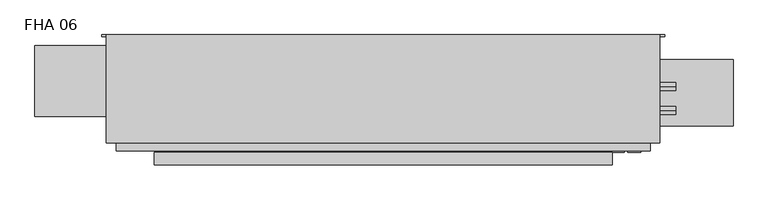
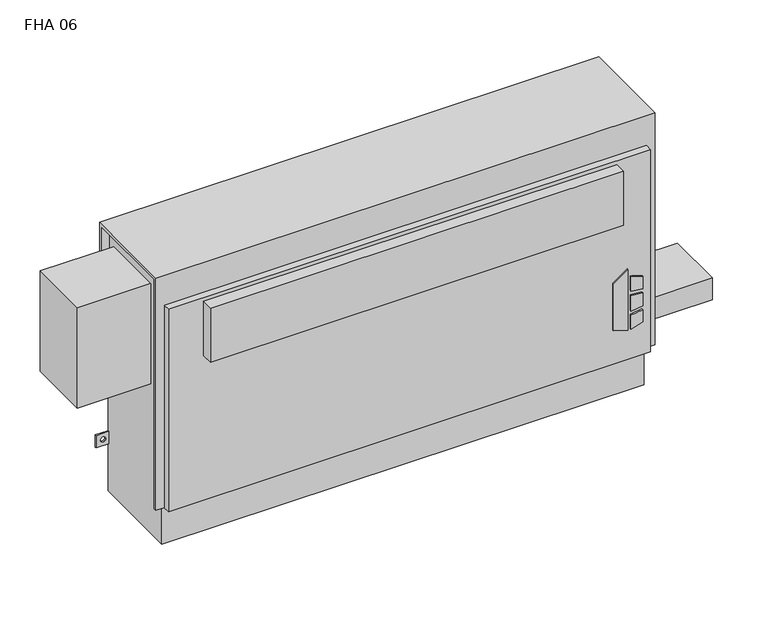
"""IFC4 building model written with IfcOpenShell, lengths in millimetres: proxy geometry, Vertical_Fan_Coil_Unit_-_FHA_-_IEC_-_2-Pipe_FS-FR_RH_2022 : FHA 06."""

import ifcopenshell
import ifcopenshell.guid

model = None  # the IFC model being written
_history = None  # IfcOwnerHistory: only IFC2X3 demands one
_inside = {}  # id of a spatial element -> (the spatial element, [elements in it])
_under = {}  # id of a project, library or spatial element -> (it, [spatial elements below it])
_declared = {}  # id of a project -> (the project, [libraries it declares])
_typed = {}  # id of a type object -> (the type object, [elements of that type])
_made_of = {}  # id of a material, layer set ... -> (it, [elements and type objects made of it])


def new_model(schema):
    """Start an empty IFC model of exactly this schema.

    Asked for "IFC4X3", IfcOpenShell would pick the latest addendum, in which some entities
    have other attributes; the version numbers below select the first issue.
    IFC2X3 requires an IfcOwnerHistory on every rooted entity: one is made here for all.
    """
    global model, _history
    if schema == "IFC4X3":
        model = ifcopenshell.file(schema_version=(4, 3, 0, 0))
    else:
        model = ifcopenshell.file(schema=schema)
    _inside.clear()
    _under.clear()
    _declared.clear()
    _typed.clear()
    _made_of.clear()
    _history = None
    if model.schema == "IFC2X3":
        org = make("IfcOrganization", Name="unknown")
        user = make(
            "IfcPersonAndOrganization",
            ThePerson=make("IfcPerson", FamilyName="unknown"),
            TheOrganization=org,
        )
        app = make(
            "IfcApplication",
            ApplicationDeveloper=org,
            Version="unknown",
            ApplicationFullName="unknown",
            ApplicationIdentifier="unknown",
        )
        _history = make(
            "IfcOwnerHistory",
            OwningUser=user,
            OwningApplication=app,
            ChangeAction="ADDED",
            CreationDate=0,
        )
    return model


def make(cls, **values):
    """One entity of the class cls with the attributes given. An attribute that is None is left unset."""
    return model.create_entity(
        cls, **{name: value for name, value in values.items() if value is not None}
    )


def rooted(cls, **values):
    """An entity with a GlobalId (a new one), such as an element, a storey or a relation."""
    return make(cls, GlobalId=ifcopenshell.guid.new(), OwnerHistory=_history, **values)


def si_unit(unit_type, name, prefix=None):
    """IfcSIUnit, for example si_unit("LENGTHUNIT", "METRE", prefix="MILLI")."""
    return make("IfcSIUnit", UnitType=unit_type, Prefix=prefix, Name=name)


def assignment(units):
    """IfcUnitAssignment: the units of a project."""
    return None if units is None else make("IfcUnitAssignment", Units=units)


def point(xyz):
    """IfcCartesianPoint."""
    return None if xyz is None else make("IfcCartesianPoint", Coordinates=xyz)


def direction(xyz):
    """IfcDirection."""
    return None if xyz is None else make("IfcDirection", DirectionRatios=xyz)


def frame(location, z_axis=None, x_axis=None):
    """IfcAxis2Placement3D, a coordinate frame: its origin and axes. An axis left out is left unset."""
    return make(
        "IfcAxis2Placement3D",
        Location=point(location),
        Axis=direction(z_axis),
        RefDirection=direction(x_axis),
    )


def frame_2d(location, x_axis=None):
    """IfcAxis2Placement2D, a coordinate frame in the plane: its origin and x axis."""
    return make(
        "IfcAxis2Placement2D", Location=point(location), RefDirection=direction(x_axis)
    )


def origin():
    """The frame at (0, 0, 0) with its axes left unset."""
    return frame((0.0, 0.0, 0.0))


def place(relative_to, where):
    """IfcLocalPlacement: puts the frame where relative to a parent placement (None: the world)."""
    return make(
        "IfcLocalPlacement", PlacementRelTo=relative_to, RelativePlacement=where
    )


def context(
    kind, dimensions, precision=None, world=None, true_north=None, identifier=None
):
    """IfcGeometricRepresentationContext, for example the 3D "Model" context."""
    return make(
        "IfcGeometricRepresentationContext",
        ContextIdentifier=identifier,
        ContextType=kind,
        CoordinateSpaceDimension=dimensions,
        Precision=precision,
        WorldCoordinateSystem=world,
        TrueNorth=true_north,
    )


def project(units=None, contexts=None):
    """IfcProject with its units and contexts."""
    return rooted(
        "IfcProject",
        Name="project",
        RepresentationContexts=contexts,
        UnitsInContext=assignment(units),
    )


def spatial(cls, under=None, at=None, **own):
    """A site, building, storey or space (cls), placed at a placement, below another one or the project."""
    s = rooted(cls, ObjectPlacement=at, **own)
    if under is not None:
        _under.setdefault(under.id(), (under, []))[1].append(s)
    return s


def polyline(points):
    """IfcPolyline through the points."""
    return make("IfcPolyline", Points=[point(p) for p in points])


def circle_curve(where, radius):
    """IfcCircle in the frame where."""
    return make("IfcCircle", Position=where, Radius=radius)


def trimmed(basis, trim1, trim2, sense, master):
    """IfcTrimmedCurve: the piece of a basis curve between two trims."""
    return make(
        "IfcTrimmedCurve",
        BasisCurve=basis,
        Trim1=trim1,
        Trim2=trim2,
        SenseAgreement=sense,
        MasterRepresentation=master,
    )


def segment(curve, same_sense, transition):
    """IfcCompositeCurveSegment."""
    return make(
        "IfcCompositeCurveSegment",
        Transition=transition,
        SameSense=same_sense,
        ParentCurve=curve,
    )


def composite_curve(segments, self_intersect=None):
    """IfcCompositeCurve: segments joined end to end."""
    return make("IfcCompositeCurve", Segments=segments, SelfIntersect=self_intersect)


def outline(outer, holes=None, kind="AREA"):
    """IfcArbitraryClosedProfileDef: a profile drawn as a closed curve; with holes, ...WithVoids."""
    if holes is None:
        return make("IfcArbitraryClosedProfileDef", ProfileType=kind, OuterCurve=outer)
    return make(
        "IfcArbitraryProfileDefWithVoids",
        ProfileType=kind,
        OuterCurve=outer,
        InnerCurves=holes,
    )


def extrude(swept, where, along, depth):
    """IfcExtrudedAreaSolid: the profile swept, set in the frame where, extruded along a direction by depth."""
    return make(
        "IfcExtrudedAreaSolid",
        SweptArea=swept,
        Position=where,
        ExtrudedDirection=direction(along),
        Depth=depth,
    )


def shape(context_of_items, identifier, shape_type, items):
    """IfcShapeRepresentation: the items that make up one representation, for example the "Body"."""
    return make(
        "IfcShapeRepresentation",
        ContextOfItems=context_of_items,
        RepresentationIdentifier=identifier,
        RepresentationType=shape_type,
        Items=items,
    )


def source(mapping_origin, context_of_items, identifier, shape_type, items):
    """IfcRepresentationMap: a shape defined once, which mapped items show again and again."""
    return make(
        "IfcRepresentationMap",
        MappingOrigin=mapping_origin,
        MappedRepresentation=shape(context_of_items, identifier, shape_type, items),
    )


def transform(
    local_origin,
    x_axis=None,
    y_axis=None,
    z_axis=None,
    scale=None,
    scale2=None,
    scale3=None,
    uniform=True,
):
    """IfcCartesianTransformationOperator3D, or its non-uniform kind. x_axis, y_axis, z_axis: its Axis1, 2, 3."""
    if uniform:
        return make(
            "IfcCartesianTransformationOperator3D",
            Axis1=direction(x_axis),
            Axis2=direction(y_axis),
            LocalOrigin=point(local_origin),
            Scale=scale,
            Axis3=direction(z_axis),
        )
    return make(
        "IfcCartesianTransformationOperator3DnonUniform",
        Axis1=direction(x_axis),
        Axis2=direction(y_axis),
        LocalOrigin=point(local_origin),
        Scale=scale,
        Axis3=direction(z_axis),
        Scale2=scale2,
        Scale3=scale3,
    )


def mapped(mapping_source, mapping_target):
    """IfcMappedItem: shows the shape of a source again, moved by a transform."""
    return make(
        "IfcMappedItem", MappingSource=mapping_source, MappingTarget=mapping_target
    )


def made_of(thing, what):
    """Note that an element or type object is made of a material, layer set ...; save() writes the relation."""
    if what is not None:
        _made_of.setdefault(what.id(), (what, []))[1].append(thing)
    return thing


def element(
    cls,
    number,
    at=None,
    inside=None,
    cuts=None,
    type_object=None,
    material=None,
    context=None,
    identifier="Body",
    shape_type=None,
    held_by="IfcProductDefinitionShape",
    body=None,
    shapes=None,
    **own,
):
    """One element of the class cls, such as IfcWall. Its Tag is "e" and its number.

    at: its placement. inside: the storey or other place that contains it. cuts: it is an
    opening in that element (IfcRelVoidsElement). A single representation is given by context,
    identifier, shape_type and body (its items); several are given by shapes. held_by: the class
    of the entity that holds the representations. save() writes the other relations.
    """
    e = rooted(cls, Tag="e%d" % number, ObjectPlacement=at, **own)
    if body is not None:
        shapes = [shape(context, identifier, shape_type, body)]
    if shapes is not None:
        e.Representation = make(held_by, Representations=shapes)
    if inside is not None:
        _inside.setdefault(inside.id(), (inside, []))[1].append(e)
    if cuts is not None:
        rooted(
            "IfcRelVoidsElement", RelatingBuildingElement=cuts, RelatedOpeningElement=e
        )
    if type_object is not None:
        _typed.setdefault(type_object.id(), (type_object, []))[1].append(e)
    return made_of(e, material)


def aggregate(whole, parts):
    """IfcRelAggregates: a whole, such as a stair, and the parts it consists of."""
    return rooted("IfcRelAggregates", RelatingObject=whole, RelatedObjects=parts)


def save(model, path):
    """Write the relations noted so far, then the file.

    IfcRelAggregates (storeys below a building ...), IfcRelContainedInSpatialStructure (elements
    in a storey), IfcRelDefinesByType, IfcRelAssociatesMaterial and IfcRelDeclares: one each for
    every whole, place, type object, material and project.
    """
    for whole, parts in _under.values():
        aggregate(whole, parts)
    for where, things in _inside.values():
        rooted(
            "IfcRelContainedInSpatialStructure",
            RelatedElements=things,
            RelatingStructure=where,
        )
    for kind, things in _typed.values():
        rooted("IfcRelDefinesByType", RelatedObjects=things, RelatingType=kind)
    for what, things in _made_of.values():
        rooted("IfcRelAssociatesMaterial", RelatedObjects=things, RelatingMaterial=what)
    for by, libraries in _declared.values():
        rooted("IfcRelDeclares", RelatingContext=by, RelatedDefinitions=libraries)
    model.write(path)


def plane_surface(at):
    """IfcPlane: the flat surface through the origin of the frame at, square to its z axis."""
    return make("IfcPlane", Position=at)


def revolved_surface(curve, axis_point, axis_direction):
    """IfcSurfaceOfRevolution: the curve turned about the line through axis_point along axis_direction."""
    return make(
        "IfcSurfaceOfRevolution",
        SweptCurve=make("IfcArbitraryOpenProfileDef", ProfileType="CURVE", Curve=curve),
        AxisPosition=make("IfcAxis1Placement", Location=point(axis_point), Axis=direction(axis_direction)),
    )


def advanced_brep(points, edges, surfaces, faces):
    """IfcAdvancedBrep: a solid bounded by faces that lie on surfaces and meet in shared edges.

    An edge is (start, end): straight between two places in points (the first is 0);
    or (start, end, curve); or (start, end, curve, False) where it runs against its curve.
    A face is (place in surfaces, loops), or (place, loops, False) where it looks against
    its surface's normal. A loop lists edges by number (the first is 1), with a minus sign
    where the edge is run from its end to its start. The first loop is the outer one.
    """
    corners = [point(p) for p in points]
    vertices = [make("IfcVertexPoint", VertexGeometry=c) for c in corners]
    made = []
    for start, end, *more in edges:
        made.append(
            make(
                "IfcEdgeCurve",
                EdgeStart=vertices[start],
                EdgeEnd=vertices[end],
                EdgeGeometry=more[0] if more else make("IfcPolyline", Points=[corners[start], corners[end]]),
                SameSense=more[1] if len(more) > 1 else True,
            )
        )
    hull = []
    for where, loops, *sense in faces:
        bounds = []
        for j, loop in enumerate(loops):
            ring = [make("IfcOrientedEdge", EdgeElement=made[abs(k) - 1], Orientation=k > 0) for k in loop]
            bounds.append(
                make(
                    "IfcFaceOuterBound" if j == 0 else "IfcFaceBound",
                    Bound=make("IfcEdgeLoop", EdgeList=ring),
                    Orientation=True,
                )
            )
        hull.append(make("IfcAdvancedFace", Bounds=bounds, FaceSurface=surfaces[where], SameSense=sense[0] if sense else True))
    return make("IfcAdvancedBrep", Outer=make("IfcClosedShell", CfsFaces=hull))


def fha_06_63c93824(model_context):
    return source(origin(), model_context, "Body", "SolidModel", [
        extrude(outline(polyline([(172.5771459, 601.7368862), (162.6290756, 633.9102728), (304.8, 633.9102728), (281.7779939, 601.7368862), (172.5771459, 601.7368862)])), frame((0.0, 9.525, 0.0), z_axis=(0.0, 1.0, 0.0), x_axis=(0.0, 0.0, 1.0)), (0.0, 0.0, 1.0), 3.175),
        extrude(outline(polyline([(251.5764313, 640.6686058), (248.3740387, 666.75), (277.6028798, 666.75), (285.6672948, 640.6686058), (251.5764313, 640.6686058)])), frame((0.0, 9.525, 0.0), z_axis=(0.0, 1.0, 0.0), x_axis=(0.0, 0.0, 1.0)), (0.0, 0.0, 1.0), 3.175),
        extrude(outline(polyline([(199.7129044, 666.75), (196.0474034, 640.6686058), (162.6290756, 640.6686058), (171.2633128, 666.75), (199.7129044, 666.75)])), frame((0.0, 9.525, 0.0), z_axis=(0.0, 1.0, 0.0), x_axis=(0.0, 0.0, 1.0)), (0.0, 0.0, 1.0), 3.175),
        extrude(outline(polyline([(239.0280658, 666.75), (241.3098921, 640.6686058), (205.3723436, 640.6686058), (208.1136086, 666.75), (239.0280658, 666.75)])), frame((0.0, 9.525, 0.0), z_axis=(0.0, 1.0, 0.0), x_axis=(0.0, 0.0, 1.0)), (0.0, 0.0, 1.0), 3.175),
        extrude(outline(composite_curve([segment(trimmed(circle_curve(frame_2d((749.3, 128.5875)), 9.525), [point((739.775, 128.5875))], [point((758.825, 128.5875))], False, "CARTESIAN"), True, "CONTINUOUS"), segment(trimmed(circle_curve(frame_2d((749.3, 128.5875)), 9.525), [point((758.825, 128.5875))], [point((739.775, 128.5875))], False, "CARTESIAN"), True, "CONTINUOUS")], self_intersect=False)), frame((0.0, 0.0, 101.6), z_axis=(0.0, 0.0, 1.0), x_axis=(1.0, 0.0, 0.0)), (0.0, 0.0, 1.0), 25.4),
        extrude(outline(polyline([(850.9, 195.2625), (850.9, 61.9125), (685.8, 61.9125), (685.8, 195.2625), (850.9, 195.2625)])), frame((0.0, 0.0, 127.0), z_axis=(0.0, 0.0, 1.0), x_axis=(1.0, 0.0, 0.0)), (0.0, 0.0, 1.0), 50.8),
        extrude(outline(polyline([(609.6, -15.875), (-304.8, -15.875), (-304.8, 9.525), (609.6, 9.525), (609.6, -15.875)])), frame((0.0, 0.0, 431.8), z_axis=(0.0, 0.0, 1.0), x_axis=(1.0, 0.0, 0.0)), (0.0, 0.0, 1.0), 127.0),
        extrude(outline(composite_curve([segment(trimmed(circle_curve(frame_2d((93.1926, 488.0102)), 7.9375), [point((93.1926, 480.0727))], [point((93.1926, 495.9477))], False, "CARTESIAN"), True, "CONTINUOUS"), segment(trimmed(circle_curve(frame_2d((93.1926, 488.0102)), 7.9375), [point((93.1926, 495.9477))], [point((93.1926, 480.0727))], False, "CARTESIAN"), True, "CONTINUOUS")], self_intersect=False)), frame((685.8, 0.0, 0.0), z_axis=(1.0, 0.0, 0.0), x_axis=(0.0, 1.0, 0.0)), (0.0, 0.0, 1.0), 50.8),
        extrude(outline(composite_curve([segment(trimmed(circle_curve(frame_2d((141.3002, 461.3402)), 7.9375), [point((141.3002, 453.4027))], [point((141.3002, 469.2777))], False, "CARTESIAN"), True, "CONTINUOUS"), segment(trimmed(circle_curve(frame_2d((141.3002, 461.3402)), 7.9375), [point((141.3002, 469.2777))], [point((141.3002, 453.4027))], False, "CARTESIAN"), True, "CONTINUOUS")], self_intersect=False)), frame((685.8, 0.0, 0.0), z_axis=(1.0, 0.0, 0.0), x_axis=(0.0, 1.0, 0.0)), (0.0, 0.0, 1.0), 50.8),
        extrude(outline(polyline([(-381.0, 223.266), (-381.0, 81.534), (-542.925, 81.534), (-542.925, 223.266), (-381.0, 223.266)])), frame((0.0, 0.0, 349.25), z_axis=(0.0, 0.0, 1.0), x_axis=(1.0, 0.0, 0.0)), (0.0, 0.0, 1.0), 234.95),
        advanced_brep(
        [(704.85, 244.475, 635.0), (-400.05, 244.475, 635.0), (-400.05, 28.575, 635.0), (704.85, 28.575, 635.0), (-381.0, 244.475, 0.0), (685.8, 244.475, 0.0), (685.8, 38.1, 0.0), (-381.0, 38.1, 0.0), (704.85, 244.475, 558.8), (685.8, 244.475, 558.8), (685.8, 244.475, 414.3375), (714.375, 244.475, 414.3375), (714.375, 244.475, 385.7625), (685.8, 244.475, 385.7625), (685.8, 244.475, 287.3375), (714.375, 244.475, 287.3375), (714.375, 244.475, 258.7625), (685.8, 244.475, 258.7625), (685.8, 244.475, 141.2875), (714.375, 244.475, 141.2875), (714.375, 244.475, 112.7125), (685.8, 244.475, 112.7125), (-381.0, 244.475, 112.7125), (-409.575, 244.475, 112.7125), (-409.575, 244.475, 141.2875), (-381.0, 244.475, 141.2875), (-381.0, 244.475, 258.7625), (-409.575, 244.475, 258.7625), (-409.575, 244.475, 287.3375), (-381.0, 244.475, 287.3375), (-381.0, 244.475, 385.7625), (-409.575, 244.475, 385.7625), (-409.575, 244.475, 414.3375), (-381.0, 244.475, 414.3375), (-381.0, 244.475, 558.8), (-400.05, 244.475, 558.8), (704.0626, 244.475, 127.0), (692.9374, 244.475, 127.0), (-388.1374, 244.475, 127.0), (-399.2626, 244.475, 127.0), (704.0626, 244.475, 273.05), (692.9374, 244.475, 273.05), (-388.1374, 244.475, 273.05), (-399.2626, 244.475, 273.05), (704.0626, 244.475, 400.05), (692.9374, 244.475, 400.05), (-388.1374, 244.475, 400.05), (-399.2626, 244.475, 400.05), (-400.05, 238.125, 558.8), (-400.05, 238.125, 628.65), (-400.05, 34.925, 628.65), (-400.05, 34.925, 92.075), (-400.05, 28.575, 92.075), (685.8, 12.7, 565.15), (-381.0, 12.7, 565.15), (-381.0, 12.7, 92.075), (685.8, 12.7, 92.075), (704.85, 28.575, 92.075), (704.85, 34.925, 92.075), (704.85, 34.925, 628.65), (704.85, 238.125, 628.65), (704.85, 238.125, 558.8), (-381.0, 28.575, 92.075), (-381.0, 28.575, 565.15), (685.8, 28.575, 565.15), (685.8, 28.575, 92.075), (-381.0, 34.925, 92.075), (-381.0, 38.1, 92.075), (685.8, 38.1, 92.075), (685.8, 34.925, 92.075), (685.8, 241.3, 112.7125), (685.8, 241.3, 141.2875), (685.8, 241.3, 258.7625), (685.8, 241.3, 287.3375), (685.8, 241.3, 385.7625), (685.8, 241.3, 414.3375), (685.8, 238.125, 558.8), (685.8, 238.125, 628.65), (685.8, 34.925, 628.65), (-381.0, 34.925, 628.65), (-381.0, 238.125, 628.65), (-381.0, 238.125, 558.8), (-381.0, 241.3, 414.3375), (-381.0, 241.3, 385.7625), (-381.0, 241.3, 287.3375), (-381.0, 241.3, 258.7625), (-381.0, 241.3, 141.2875), (-381.0, 241.3, 112.7125), (714.375, 241.3, 112.7125), (714.375, 241.3, 141.2875), (692.9374, 241.3, 127.0), (704.0626, 241.3, 127.0), (714.375, 241.3, 258.7625), (714.375, 241.3, 287.3375), (692.9374, 241.3, 273.05), (704.0626, 241.3, 273.05), (714.375, 241.3, 385.7625), (714.375, 241.3, 414.3375), (692.9374, 241.3, 400.05), (704.0626, 241.3, 400.05), (-409.575, 241.3, 141.2875), (-409.575, 241.3, 112.7125), (-399.2626, 241.3, 127.0), (-388.1374, 241.3, 127.0), (-409.575, 241.3, 287.3375), (-409.575, 241.3, 258.7625), (-399.2626, 241.3, 273.05), (-388.1374, 241.3, 273.05), (-409.575, 241.3, 414.3375), (-409.575, 241.3, 385.7625), (-399.2626, 241.3, 400.05), (-388.1374, 241.3, 400.05)],
        [
            (0, 1),
            (1, 2),
            (2, 3),
            (3, 0),
            (4, 5),
            (5, 6),
            (6, 7),
            (7, 4),
            (0, 8),
            (8, 9),
            (9, 10),
            (10, 11),
            (11, 12),
            (12, 13),
            (13, 14),
            (14, 15),
            (15, 16),
            (16, 17),
            (17, 18),
            (18, 19),
            (19, 20),
            (20, 21),
            (21, 5),
            (4, 22),
            (22, 23),
            (23, 24),
            (24, 25),
            (25, 26),
            (26, 27),
            (27, 28),
            (28, 29),
            (29, 30),
            (30, 31),
            (31, 32),
            (32, 33),
            (33, 34),
            (34, 35),
            (35, 1),
            (36, 37, circle_curve(frame((698.5, 244.475, 127.0), z_axis=(0.0, -1.0, 0.0), x_axis=(-1.0, 0.0, 0.0)), 5.5626)),
            (37, 36, circle_curve(frame((698.5, 244.475, 127.0), z_axis=(0.0, -1.0, 0.0), x_axis=(-1.0, 0.0, 0.0)), 5.5626)),
            (38, 39, circle_curve(frame((-393.7, 244.475, 127.0), z_axis=(0.0, -1.0, 0.0), x_axis=(-1.0, 0.0, 0.0)), 5.5626)),
            (39, 38, circle_curve(frame((-393.7, 244.475, 127.0), z_axis=(0.0, -1.0, 0.0), x_axis=(-1.0, 0.0, 0.0)), 5.5626)),
            (40, 41, circle_curve(frame((698.5, 244.475, 273.05), z_axis=(0.0, -1.0, 0.0), x_axis=(-1.0, 0.0, 0.0)), 5.5626)),
            (41, 40, circle_curve(frame((698.5, 244.475, 273.05), z_axis=(0.0, -1.0, 0.0), x_axis=(-1.0, 0.0, 0.0)), 5.5626)),
            (42, 43, circle_curve(frame((-393.7, 244.475, 273.05), z_axis=(0.0, -1.0, 0.0), x_axis=(-1.0, 0.0, 0.0)), 5.5626)),
            (43, 42, circle_curve(frame((-393.7, 244.475, 273.05), z_axis=(0.0, -1.0, 0.0), x_axis=(-1.0, 0.0, 0.0)), 5.5626)),
            (44, 45, circle_curve(frame((698.5, 244.475, 400.05), z_axis=(0.0, -1.0, 0.0), x_axis=(-1.0, 0.0, 0.0)), 5.5626)),
            (45, 44, circle_curve(frame((698.5, 244.475, 400.05), z_axis=(0.0, -1.0, 0.0), x_axis=(-1.0, 0.0, 0.0)), 5.5626)),
            (46, 47, circle_curve(frame((-393.7, 244.475, 400.05), z_axis=(0.0, -1.0, 0.0), x_axis=(-1.0, 0.0, 0.0)), 5.5626)),
            (47, 46, circle_curve(frame((-393.7, 244.475, 400.05), z_axis=(0.0, -1.0, 0.0), x_axis=(-1.0, 0.0, 0.0)), 5.5626)),
            (35, 48),
            (48, 49),
            (49, 50),
            (50, 51),
            (51, 52),
            (52, 2),
            (53, 54),
            (54, 55),
            (55, 56),
            (56, 53),
            (3, 57),
            (57, 58),
            (58, 59),
            (59, 60),
            (60, 61),
            (61, 8),
            (52, 62),
            (62, 63),
            (63, 64),
            (64, 65),
            (65, 57),
            (53, 64),
            (63, 54),
            (55, 62),
            (51, 66),
            (66, 67),
            (67, 68),
            (68, 69),
            (69, 58),
            (65, 56),
            (6, 68),
            (67, 7),
            (21, 70),
            (70, 71),
            (71, 18),
            (17, 72),
            (72, 73),
            (73, 14),
            (13, 74),
            (74, 75),
            (75, 10),
            (9, 76),
            (76, 77),
            (77, 78),
            (78, 69),
            (66, 79),
            (79, 80),
            (80, 81),
            (81, 34),
            (33, 82),
            (82, 83),
            (83, 30),
            (29, 84),
            (84, 85),
            (85, 26),
            (25, 86),
            (86, 87),
            (87, 22),
            (76, 61),
            (60, 77),
            (78, 59),
            (50, 79),
            (81, 48),
            (80, 49),
            (70, 88),
            (88, 89),
            (89, 71),
            (90, 91, circle_curve(frame((698.5, 241.3, 127.0), z_axis=(0.0, 1.0, 0.0), x_axis=(-1.0, 0.0, 0.0)), 5.5626)),
            (91, 90, circle_curve(frame((698.5, 241.3, 127.0), z_axis=(0.0, 1.0, 0.0), x_axis=(-1.0, 0.0, 0.0)), 5.5626)),
            (92, 93),
            (93, 73),
            (72, 92),
            (94, 95, circle_curve(frame((698.5, 241.3, 273.05), z_axis=(0.0, 1.0, 0.0), x_axis=(-1.0, 0.0, 0.0)), 5.5626)),
            (95, 94, circle_curve(frame((698.5, 241.3, 273.05), z_axis=(0.0, 1.0, 0.0), x_axis=(-1.0, 0.0, 0.0)), 5.5626)),
            (96, 97),
            (97, 75),
            (74, 96),
            (98, 99, circle_curve(frame((698.5, 241.3, 400.05), z_axis=(0.0, 1.0, 0.0), x_axis=(-1.0, 0.0, 0.0)), 5.5626)),
            (99, 98, circle_curve(frame((698.5, 241.3, 400.05), z_axis=(0.0, 1.0, 0.0), x_axis=(-1.0, 0.0, 0.0)), 5.5626)),
            (100, 101),
            (101, 87),
            (86, 100),
            (102, 103, circle_curve(frame((-393.7, 241.3, 127.0), z_axis=(0.0, 1.0, 0.0), x_axis=(-1.0, 0.0, 0.0)), 5.5626)),
            (103, 102, circle_curve(frame((-393.7, 241.3, 127.0), z_axis=(0.0, 1.0, 0.0), x_axis=(-1.0, 0.0, 0.0)), 5.5626)),
            (84, 104),
            (104, 105),
            (105, 85),
            (106, 107, circle_curve(frame((-393.7, 241.3, 273.05), z_axis=(0.0, 1.0, 0.0), x_axis=(-1.0, 0.0, 0.0)), 5.5626)),
            (107, 106, circle_curve(frame((-393.7, 241.3, 273.05), z_axis=(0.0, 1.0, 0.0), x_axis=(-1.0, 0.0, 0.0)), 5.5626)),
            (108, 109),
            (109, 83),
            (82, 108),
            (110, 111, circle_curve(frame((-393.7, 241.3, 400.05), z_axis=(0.0, 1.0, 0.0), x_axis=(-1.0, 0.0, 0.0)), 5.5626)),
            (111, 110, circle_curve(frame((-393.7, 241.3, 400.05), z_axis=(0.0, 1.0, 0.0), x_axis=(-1.0, 0.0, 0.0)), 5.5626)),
            (89, 19),
            (88, 20),
            (16, 92),
            (93, 15),
            (12, 96),
            (97, 11),
            (24, 100),
            (101, 23),
            (105, 27),
            (104, 28),
            (32, 108),
            (109, 31),
            (90, 37),
            (36, 91),
            (102, 39),
            (38, 103),
            (94, 41),
            (40, 95),
            (106, 43),
            (42, 107),
            (98, 45),
            (44, 99),
            (110, 47),
            (46, 111),
        ],
        [
            plane_surface(frame((-400.05, 244.475, 635.0), z_axis=(0.0, 0.0, 1.0), x_axis=(-1.0, 0.0, 0.0))),
            plane_surface(frame((-400.05, 244.475, 0.0), z_axis=(0.0, 0.0, -1.0), x_axis=(1.0, 0.0, 0.0))),
            plane_surface(frame((704.85, 244.475, 635.0), z_axis=(0.0, 1.0, 0.0), x_axis=(0.0, 0.0, -1.0))),
            plane_surface(frame((-400.05, 244.475, 635.0), z_axis=(-1.0, 0.0, 0.0), x_axis=(0.0, 0.0, -1.0))),
            plane_surface(frame((-400.05, 12.7, 635.0), z_axis=(0.0, -1.0, 0.0), x_axis=(0.0, 0.0, -1.0))),
            plane_surface(frame((704.85, 12.7, 635.0), z_axis=(1.0, 0.0, 0.0), x_axis=(0.0, 0.0, -1.0))),
            plane_surface(frame((-654.05, 28.575, 635.0), z_axis=(0.0, -1.0, 0.0), x_axis=(1.0, 0.0, 0.0))),
            plane_surface(frame((-654.05, 28.575, 565.15), z_axis=(0.0, 0.0, 1.0), x_axis=(1.0, 0.0, 0.0))),
            plane_surface(frame((-400.05, 12.7, 92.075), z_axis=(0.0, 0.0, -1.0), x_axis=(1.0, 0.0, 0.0))),
            plane_surface(frame((-400.05, 38.1, 92.075), z_axis=(0.0, -1.0, 0.0), x_axis=(1.0, 0.0, 0.0))),
            plane_surface(frame((685.8, 28.575, 92.075), z_axis=(1.0, 0.0, 0.0), x_axis=(0.0, -1.0, 0.0))),
            plane_surface(frame((-381.0, 28.575, 565.15), z_axis=(-1.0, 0.0, 0.0), x_axis=(0.0, -1.0, 0.0))),
            plane_surface(frame((685.8, 244.475, 0.0), z_axis=(1.0, 0.0, 0.0), x_axis=(0.0, -1.0, 0.0))),
            plane_surface(frame((-381.0, 244.475, 92.075), z_axis=(-1.0, 0.0, 0.0), x_axis=(0.0, -1.0, 0.0))),
            plane_surface(frame((685.8, 238.125, 628.65), z_axis=(0.0, -1.0, 0.0), x_axis=(1.0, 0.0, 0.0))),
            plane_surface(frame((685.8, 238.125, 558.8), z_axis=(0.0, 0.0, -1.0), x_axis=(1.0, 0.0, 0.0))),
            plane_surface(frame((685.8, 34.925, 92.075), z_axis=(0.0, 1.0, 0.0), x_axis=(1.0, 0.0, 0.0))),
            plane_surface(frame((685.8, 34.925, 628.65), z_axis=(0.0, 0.0, -1.0), x_axis=(1.0, 0.0, 0.0))),
            plane_surface(frame((-381.0, 34.925, 628.65), z_axis=(0.0, 1.0, 0.0), x_axis=(-1.0, 0.0, 0.0))),
            plane_surface(frame((-381.0, 244.475, 558.8), z_axis=(0.0, 0.0, -1.0), x_axis=(-1.0, 0.0, 0.0))),
            plane_surface(frame((-381.0, 238.125, 558.8), z_axis=(0.0, -1.0, 0.0), x_axis=(-1.0, 0.0, 0.0))),
            plane_surface(frame((-381.0, 238.125, 628.65), z_axis=(0.0, 0.0, -1.0), x_axis=(-1.0, 0.0, 0.0))),
            plane_surface(frame((714.375, 241.3, 141.2875), z_axis=(0.0, -1.0, 0.0), x_axis=(-1.0, 0.0, 0.0))),
            plane_surface(frame((685.8, 244.475, 141.2875), z_axis=(0.0, 0.0, 1.0), x_axis=(0.0, -1.0, 0.0))),
            plane_surface(frame((714.375, 244.475, 141.2875), z_axis=(1.0, 0.0, 0.0), x_axis=(0.0, -1.0, 0.0))),
            plane_surface(frame((714.375, 244.475, 112.7125), z_axis=(0.0, 0.0, -1.0), x_axis=(0.0, -1.0, 0.0))),
            plane_surface(frame((714.375, 244.475, 258.7625), z_axis=(0.0, 0.0, -1.0), x_axis=(0.0, -1.0, 0.0))),
            plane_surface(frame((685.8, 244.475, 287.3375), z_axis=(0.0, 0.0, 1.0), x_axis=(0.0, -1.0, 0.0))),
            plane_surface(frame((714.375, 244.475, 287.3375), z_axis=(1.0, 0.0, 0.0), x_axis=(0.0, -1.0, 0.0))),
            plane_surface(frame((714.375, 244.475, 385.7625), z_axis=(0.0, 0.0, -1.0), x_axis=(0.0, -1.0, 0.0))),
            plane_surface(frame((685.8, 244.475, 414.3375), z_axis=(0.0, 0.0, 1.0), x_axis=(0.0, -1.0, 0.0))),
            plane_surface(frame((714.375, 244.475, 414.3375), z_axis=(1.0, 0.0, 0.0), x_axis=(0.0, -1.0, 0.0))),
            plane_surface(frame((-409.575, 244.475, 141.2875), z_axis=(0.0, 0.0, 1.0), x_axis=(0.0, -1.0, 0.0))),
            plane_surface(frame((-381.0, 244.475, 112.7125), z_axis=(0.0, 0.0, -1.0), x_axis=(0.0, -1.0, 0.0))),
            plane_surface(frame((-409.575, 244.475, 112.7125), z_axis=(-1.0, 0.0, 0.0), x_axis=(0.0, -1.0, 0.0))),
            plane_surface(frame((-381.0, 244.475, 258.7625), z_axis=(0.0, 0.0, -1.0), x_axis=(0.0, -1.0, 0.0))),
            plane_surface(frame((-409.575, 244.475, 258.7625), z_axis=(-1.0, 0.0, 0.0), x_axis=(0.0, -1.0, 0.0))),
            plane_surface(frame((-409.575, 244.475, 287.3375), z_axis=(0.0, 0.0, 1.0), x_axis=(0.0, -1.0, 0.0))),
            plane_surface(frame((-409.575, 244.475, 414.3375), z_axis=(0.0, 0.0, 1.0), x_axis=(0.0, -1.0, 0.0))),
            plane_surface(frame((-381.0, 244.475, 385.7625), z_axis=(0.0, 0.0, -1.0), x_axis=(0.0, -1.0, 0.0))),
            plane_surface(frame((-409.575, 244.475, 385.7625), z_axis=(-1.0, 0.0, 0.0), x_axis=(0.0, -1.0, 0.0))),
            revolved_surface(polyline([(692.9374, 241.3, 127.0), (692.9374, 244.475, 127.0)]), (698.5, 244.475, 127.0), (0.0, -1.0, 0.0)),
            revolved_surface(polyline([(-399.26259999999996, 241.3, 127.0), (-399.26259999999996, 244.475, 127.0)]), (-393.7, 244.475, 127.0), (0.0, -1.0, 0.0)),
            revolved_surface(polyline([(692.9374, 241.3, 273.05), (692.9374, 244.475, 273.05)]), (698.5, 244.475, 273.05), (0.0, -1.0, 0.0)),
            revolved_surface(polyline([(-399.26259999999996, 241.3, 273.05), (-399.26259999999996, 244.475, 273.05)]), (-393.7, 244.475, 273.05), (0.0, -1.0, 0.0)),
            revolved_surface(polyline([(692.9374, 241.3, 400.05), (692.9374, 244.475, 400.05)]), (698.5, 244.475, 400.05), (0.0, -1.0, 0.0)),
            revolved_surface(polyline([(-399.26259999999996, 241.3, 400.05), (-399.26259999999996, 244.475, 400.05)]), (-393.7, 244.475, 400.05), (0.0, -1.0, 0.0)),
        ],
        [
            (0, [[1, 2, 3, 4]]),
            (1, [[5, 6, 7, 8]]),
            (2, [[-1, 9, 10, 11, 12, 13, 14, 15, 16, 17, 18, 19, 20, 21, 22, 23, -5, 24, 25, 26, 27, 28, 29, 30, 31, 32, 33, 34, 35, 36, 37, 38], [39, 40], [41, 42], [43, 44], [45, 46], [47, 48], [49, 50]]),
            (3, [[-2, -38, 51, 52, 53, 54, 55, 56]]),
            (4, [[57, 58, 59, 60]]),
            (5, [[-4, 61, 62, 63, 64, 65, 66, -9]]),
            (6, [[-3, -56, 67, 68, 69, 70, 71, -61]]),
            (7, [[-57, 72, -69, 73]]),
            (8, [[-59, 74, -67, -55, 75, 76, 77, 78, 79, -62, -71, 80]]),
            (9, [[-7, 81, -77, 82]]),
            (10, [[-70, -72, -60, -80]]),
            (11, [[-68, -74, -58, -73]]),
            (12, [[-6, -23, 83, 84, 85, -19, 86, 87, 88, -15, 89, 90, 91, -11, 92, 93, 94, 95, -78, -81]]),
            (13, [[-8, -82, -76, 96, 97, 98, 99, -36, 100, 101, 102, -32, 103, 104, 105, -28, 106, 107, 108, -24]]),
            (14, [[-93, 109, -65, 110]]),
            (15, [[-92, -10, -66, -109]]),
            (16, [[-95, 111, -63, -79]]),
            (17, [[-94, -110, -64, -111]]),
            (18, [[-96, -75, -54, 112]]),
            (19, [[-99, 113, -51, -37]]),
            (20, [[-98, 114, -52, -113]]),
            (21, [[-97, -112, -53, -114]]),
            (22, [[115, 116, 117, -84], [118, 119]]),
            (22, [[120, 121, -87, 122], [123, 124]]),
            (22, [[125, 126, -90, 127], [128, 129]]),
            (22, [[130, 131, -107, 132], [133, 134]]),
            (22, [[135, 136, 137, -104], [138, 139]]),
            (22, [[140, 141, -101, 142], [143, 144]]),
            (23, [[-117, 145, -20, -85]]),
            (24, [[-116, 146, -21, -145]]),
            (25, [[-115, -83, -22, -146]]),
            (26, [[-122, -86, -18, 147]]),
            (27, [[-121, 148, -16, -88]]),
            (28, [[-120, -147, -17, -148]]),
            (29, [[-127, -89, -14, 149]]),
            (30, [[-126, 150, -12, -91]]),
            (31, [[-125, -149, -13, -150]]),
            (32, [[-132, -106, -27, 151]]),
            (33, [[-131, 152, -25, -108]]),
            (34, [[-130, -151, -26, -152]]),
            (35, [[-137, 153, -29, -105]]),
            (36, [[-136, 154, -30, -153]]),
            (37, [[-135, -103, -31, -154]]),
            (38, [[-142, -100, -35, 155]]),
            (39, [[-141, 156, -33, -102]]),
            (40, [[-140, -155, -34, -156]]),
            (41, [[157, -39, 158, -118]]),
            (41, [[-157, -119, -158, -40]]),
            (42, [[159, -41, 160, -133]]),
            (42, [[-159, -134, -160, -42]]),
            (43, [[161, -43, 162, -123]]),
            (43, [[-161, -124, -162, -44]]),
            (44, [[163, -45, 164, -138]]),
            (44, [[-163, -139, -164, -46]]),
            (45, [[165, -47, 166, -128]]),
            (45, [[-165, -129, -166, -48]]),
            (46, [[167, -49, 168, -143]]),
            (46, [[-167, -144, -168, -50]]),
        ],
    ),
    ])


if __name__ == "__main__":
    model = new_model("IFC4")
    model_context = context("Model", 3, world=origin())
    ifc_project = project(units=[si_unit("LENGTHUNIT", "METRE", prefix="MILLI")], contexts=[model_context])
    site = spatial("IfcSite", under=ifc_project)
    building = spatial("IfcBuilding", under=site)
    placement = place(None, origin())
    fha_06_shape = fha_06_63c93824(model_context)
    element("IfcBuildingElementProxy", 1, Name="Vertical_Fan_Coil_Unit_-_FHA_-_IEC_-_2-Pipe_FS-FR_RH_2022 : FHA 06", ObjectType="Vertical_Fan_Coil_Unit_-_FHA_-_IEC_-_2-Pipe_FS-FR_RH_2022 : FHA 06", at=placement, inside=building, context=model_context, shape_type="MappedRepresentation", body=[
        mapped(fha_06_shape, transform((0.0, 0.0, 0.0), x_axis=(1.0, 0.0, 0.0), y_axis=(0.0, 1.0, 0.0), z_axis=(0.0, 0.0, 1.0))),
    ])
    save(model, "model.ifc")
